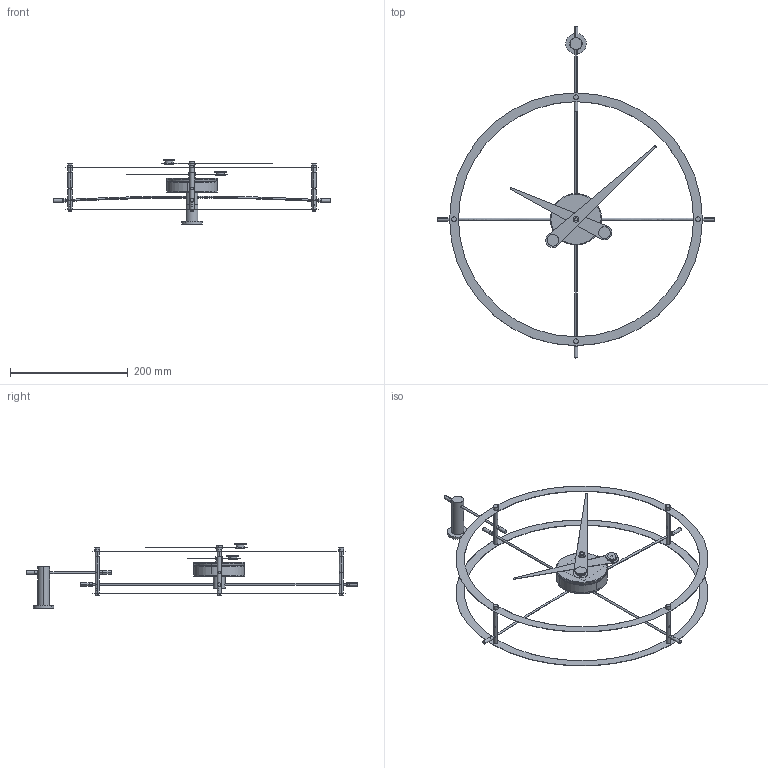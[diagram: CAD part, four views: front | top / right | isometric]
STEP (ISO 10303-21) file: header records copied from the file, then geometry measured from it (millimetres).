
FILE_DESCRIPTION (( 'STEP AP214' ), '1' );
FILE_NAME ('2PUNTOS_i.STEP', '2016-09-13T10:32:57', ( '' ), ( '' ), 'SwSTEP 2.0', 'SolidWorks 2013', '' );
FILE_SCHEMA (( 'AUTOMOTIVE_DESIGN' ));
Length unit declared in the file: millimetre
Products named in the file (33): Ecler_2puntos; Pieza_caja_superior; Tuerca 1.5; Esparrago; Casquillo_2puntos; Arandela_dentada_2puntos; Aguja_horaria_2puntos; Varilla_anclaje_pared; Varilla_2_axioma_2puntos; Tuerca; Varilla_axioma_2puntos; Pieza2; Mecanismo; Esparrago_roscado_embellecedor_2puntos; Soporte_Anclaje_pared_2puntos; Embellecedor; Anclaje_varilla_inox; Pieza_caja_inferior; Pasante; Embellecedor_2puntos; Anclaje_pared_2puntos; Contrapeso_pequeño; Aro_inox_2puntos; Tornillo; 2PUNTOS_i; aguja_minutera_inox; Arandela; Arandela_2; Cierre_contrapeso; aguja_horaria_inox; Aguja_minutera_2puntos; Caja_acero_inox_2puntos; Contrapeso_mediano
Assembly tree (54 placements, depth 3):
  2PUNTOS_i
    Aro_inox_2puntos  x2
    Anclaje_varilla_inox  x4
    Esparrago_roscado_embellecedor_2puntos  x4
    Embellecedor_2puntos  x4
    Arandela_dentada_2puntos  x4
    Tornillo  x4
    Ecler_2puntos
    Varilla_axioma_2puntos
    Varilla_2_axioma_2puntos
    Casquillo_2puntos  x6
    Varilla_anclaje_pared
    Anclaje_pared_2puntos
    Soporte_Anclaje_pared_2puntos
    Caja_acero_inox_2puntos
      Pieza_caja_inferior
      Pieza_caja_superior
      Mecanismo
      Pieza2
    Aguja_horaria_2puntos
      aguja_horaria_inox
      Arandela_2
      Cierre_contrapeso
      Contrapeso_pequeño
      Tuerca
      Pasante
    Aguja_minutera_2puntos
      aguja_minutera_inox
      Cierre_contrapeso
      Contrapeso_mediano
      Arandela
      Embellecedor
      Esparrago
      Tuerca 1.5
Bounding box: 472 x 564.75 x 110.2 mm (x, y, z)
Volume: 146176.7 mm3; surface area: 191034.7 mm2
Topology: 51 solids, 51 shells, 538 faces, 1102 edges, 704 vertices
Faces by surface type: cylinder 298, plane 190, torus 34, cone 14, bspline 2
Entity records: 11164 total; most frequent: CARTESIAN_POINT 2393, DIRECTION 1764, ORIENTED_EDGE 1352, AXIS2_PLACEMENT_3D 747, EDGE_CURVE 676, VERTEX_POINT 428, EDGE_LOOP 394, CIRCLE 366
